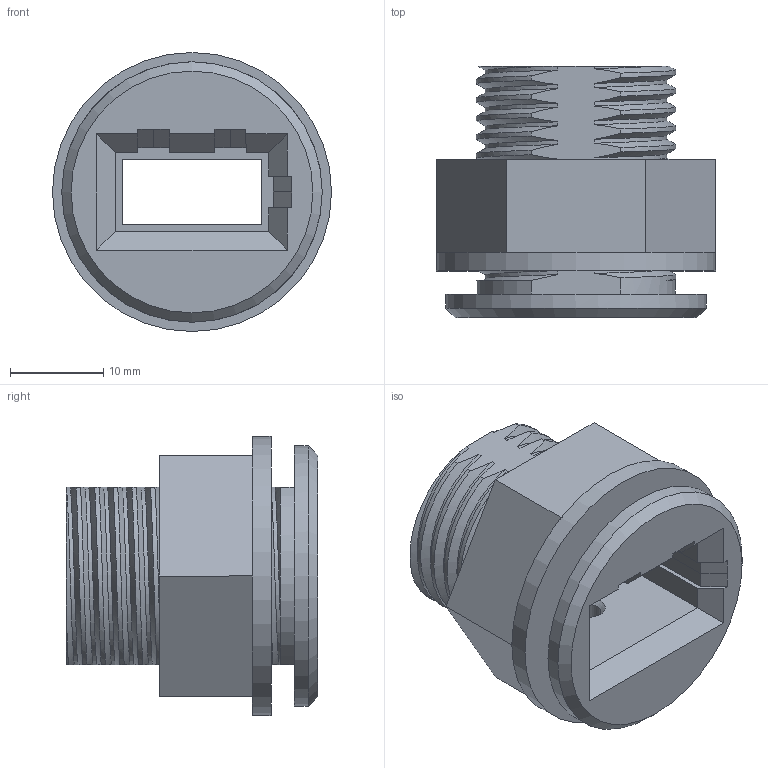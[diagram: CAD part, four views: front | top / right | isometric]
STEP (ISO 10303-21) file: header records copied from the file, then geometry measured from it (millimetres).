
FILE_DESCRIPTION(/* description */ (''),/* implementation_level */ '2;1');
FILE_NAME(/* name */ 'C:/Users/Bruker/Downloads/3D/PP30_Screw v13.step',/* time_stamp */ '2017-10-11T21:59:28+02:00',/* author */ ('robinCGFYR'),/* organization */ (''),/* preprocessor_version */ 'ST-DEVELOPER v16.13',/* originating_system */ 'Autodesk Translation Framework v6.5.0.72',/* authorisation */ '');
FILE_SCHEMA (('AUTOMOTIVE_DESIGN { 1 0 10303 214 3 1 1 }'));
Length unit declared in the file: millimetre
Products named in the file (2): PP30_Screw v13; PP30_Nut
Assembly tree (1 placements, depth 2):
  PP30_Screw v13
    PP30_Nut
Bounding box: 30 x 27 x 30 mm (x, y, z)
Volume: 9458.1 mm3; surface area: 7961.6 mm2
Topology: 2 solids, 2 shells, 191 faces, 529 edges, 343 vertices
Faces by surface type: cylinder 73, plane 63, bspline 50, cone 5
Full cylindrical faces by diameter (mm): 2.6 x1, 3.8 x1, 4.7 x1, 20.422 x7, 22.25 x7, 28 x1, 30 x1
Entity records: 10752 total; most frequent: CARTESIAN_POINT 6404, ORIENTED_EDGE 1058, DIRECTION 620, EDGE_CURVE 529, VERTEX_POINT 343, LINE 246, VECTOR 246, B_SPLINE_CURVE_WITH_KNOTS 240
